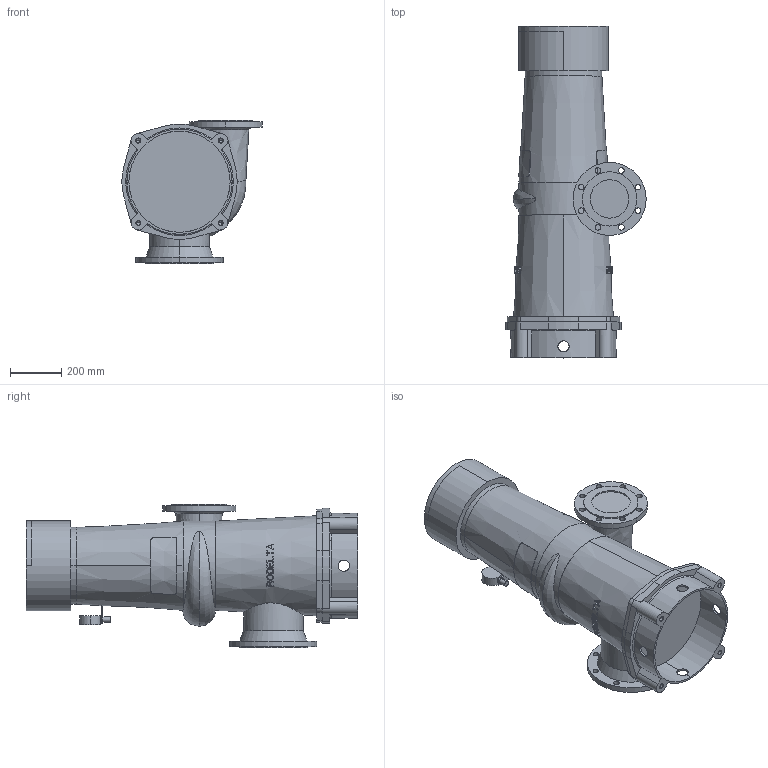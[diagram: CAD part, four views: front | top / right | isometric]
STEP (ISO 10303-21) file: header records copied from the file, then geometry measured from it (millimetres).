
FILE_DESCRIPTION((''),'2;1');
FILE_NAME('7310_ASM','2024-07-23T',('Lyritlocal'),(''),'PRO/ENGINEER BY PARAMETRIC TECHNOLOGY CORPORATION, 2016360','PRO/ENGINEER BY PARAMETRIC TECHNOLOGY CORPORATION, 2016360','');
FILE_SCHEMA(('CONFIG_CONTROL_DESIGN'));
Length unit declared in the file: millimetre
Products named in the file (3): 7310_VOET; 7310; 7310_ASM
Assembly tree (2 placements, depth 2):
  7310_ASM
    7310_VOET
    7310
Bounding box: 547.5 x 1295 x 560 mm (x, y, z)
Volume: 130921154 mm3; surface area: 2758235.8 mm2
Topology: 2 solids, 6 shells, 520 faces, 1400 edges, 927 vertices
Faces by surface type: plane 343, cylinder 129, cone 38, bspline 6, torus 4
Entity records: 18158 total; most frequent: CARTESIAN_POINT 5526, ORIENTED_EDGE 2768, DIRECTION 2357, EDGE_CURVE 1392, VERTEX_POINT 927, AXIS2_PLACEMENT_3D 912, EDGE_LOOP 611, VECTOR 533
